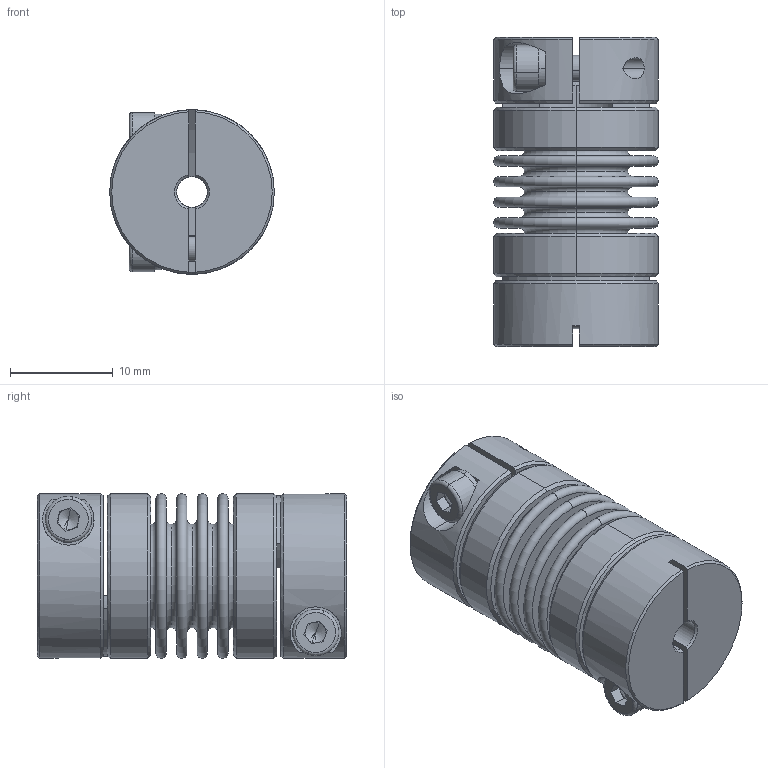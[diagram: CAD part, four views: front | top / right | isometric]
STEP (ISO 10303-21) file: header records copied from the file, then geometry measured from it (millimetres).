
FILE_DESCRIPTION (( 'STEP AP203' ), '1' );
FILE_NAME ('LB-B-D16L30-3-8.STEP', '2021-11-04T01:10:23', ( '' ), ( '' ), 'SwSTEP 2.0', 'SolidWorks 2018', '' );
FILE_SCHEMA (( 'CONFIG_CONTROL_DESIGN' ));
Length unit declared in the file: millimetre
Products named in the file (2): 零件1^LB-B-D16L30 波纹管联轴器-组装体; LB-B-D16L30-3-8
Assembly tree (1 placements, depth 2):
  LB-B-D16L30-3-8
    零件1^LB-B-D16L30 波纹管联轴器-组装体
Bounding box: 16 x 30.04 x 16 mm (x, y, z)
Volume: 3116.4 mm3; surface area: 6426.7 mm2
Topology: 1 solids, 1 shells, 254 faces, 586 edges, 362 vertices
Faces by surface type: plane 86, torus 68, cylinder 66, cone 34
Entity records: 7660 total; most frequent: CARTESIAN_POINT 1472, DIRECTION 1420, ORIENTED_EDGE 1164, AXIS2_PLACEMENT_3D 622, EDGE_CURVE 582, CIRCLE 364, VERTEX_POINT 362, EDGE_LOOP 296
